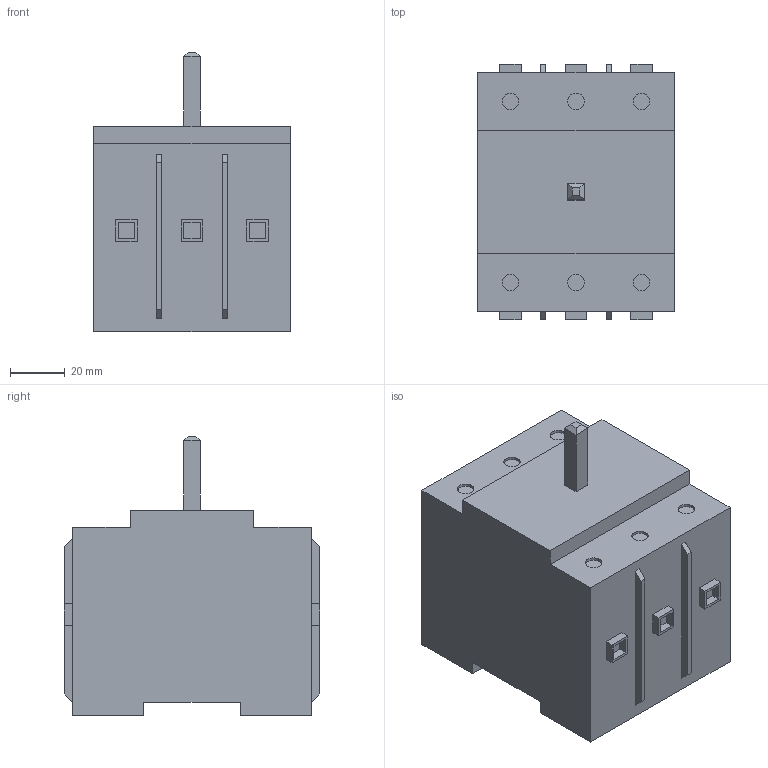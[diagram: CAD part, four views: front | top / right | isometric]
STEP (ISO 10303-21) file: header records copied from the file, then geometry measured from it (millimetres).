
FILE_DESCRIPTION(('STEP AP214'),'1');
FILE_NAME('bloc_nu_022170.stp','2019-01-09T08:02:59',('TraceParts'),('TraceParts S.A.'),'Spatial InterOp 3D',' ',' ');
FILE_SCHEMA(('automotive_design'));
Length unit declared in the file: millimetre
Products named in the file (1): bloc_nu_022170
Bounding box: 71.8 x 93 x 102 mm (x, y, z)
Volume: 439877.6 mm3; surface area: 39285.8 mm2
Topology: 1 solids, 1 shells, 121 faces, 284 edges, 188 vertices
Faces by surface type: plane 109, cylinder 12
Entity records: 3425 total; most frequent: CARTESIAN_POINT 594, ORIENTED_EDGE 568, DIRECTION 552, EDGE_CURVE 284, LINE 260, VECTOR 260, VERTEX_POINT 188, AXIS2_PLACEMENT_3D 146
